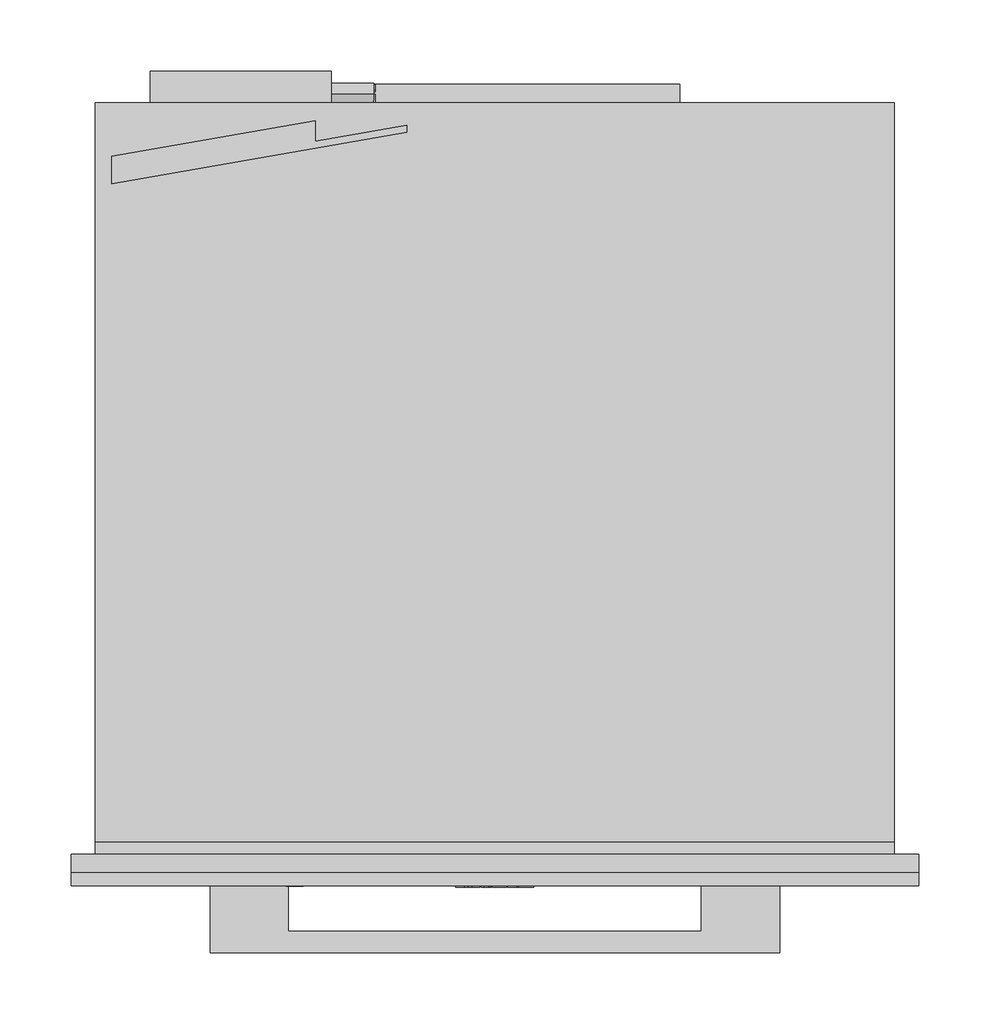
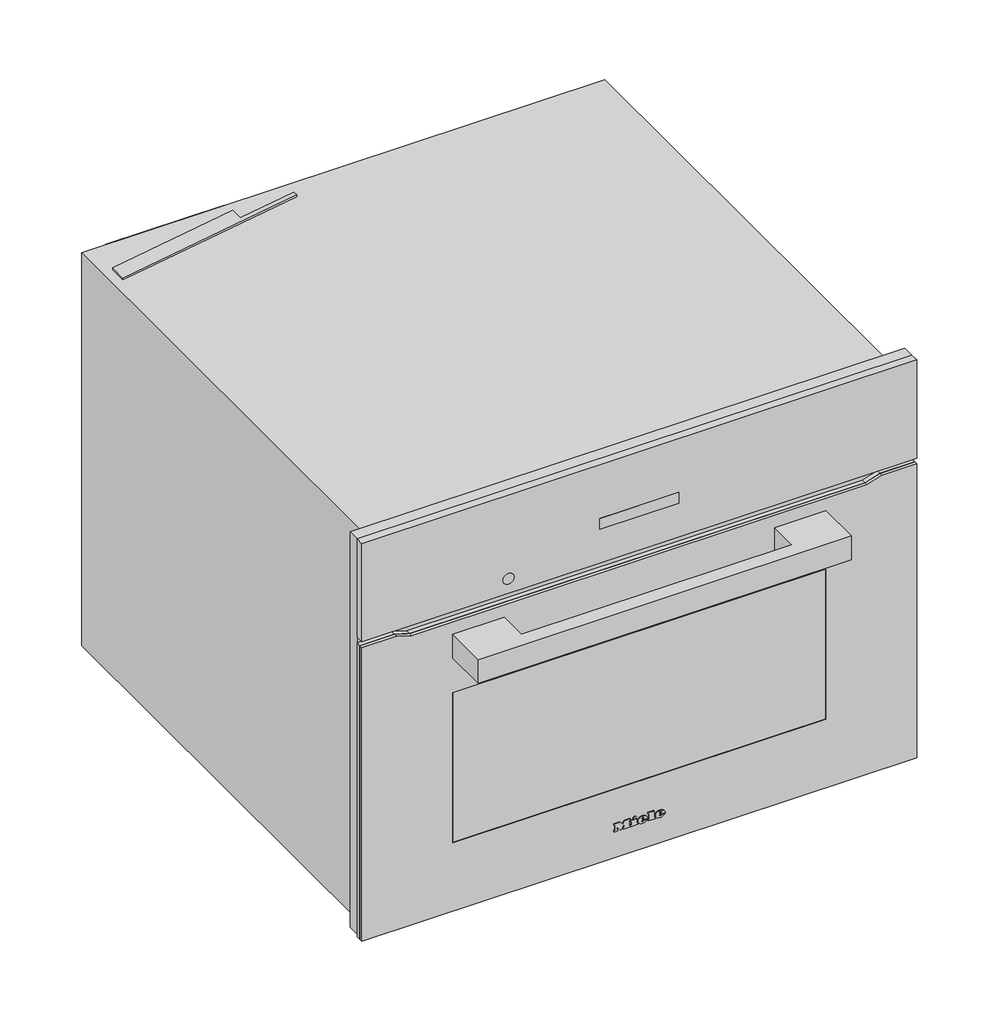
# Not in any storey: 1 proxy.
"""IFC4 building model written with IfcOpenShell, lengths in millimetres."""

from ifc_helpers import new_model, si_unit, origin, place, context, project, spatial, transform, mapped, element, save
from components import specialty_equipment_4923d833

model = new_model("IFC4")

# Units and contexts
model_context = context("Model", 3, world=origin())
ifc_project = project(units=[si_unit("LENGTHUNIT", "METRE", prefix="MILLI")], contexts=[model_context])

# Site, building
site = spatial("IfcSite", under=ifc_project)
building = spatial("IfcBuilding", under=site)

# Proxy
placement = place(None, origin())
specialty_equipment_shape = specialty_equipment_4923d833(model_context)
element("IfcBuildingElementProxy", 1, Name="12842740_USA_H7240BM_OBSW : 22724026_USA_12842740_H7240BM_OBSW", ObjectType="12842740_USA_H7240BM_OBSW : 22724026_USA_12842740_H7240BM_OBSW", at=placement, inside=building, context=model_context, shape_type="MappedRepresentation", body=[
    mapped(specialty_equipment_shape, transform((0.0, 0.0, 0.0), x_axis=(1.0, 0.0, 0.0), y_axis=(0.0, 1.0, 0.0), z_axis=(0.0, 0.0, 1.0))),
])

save(model, "model.ifc")
